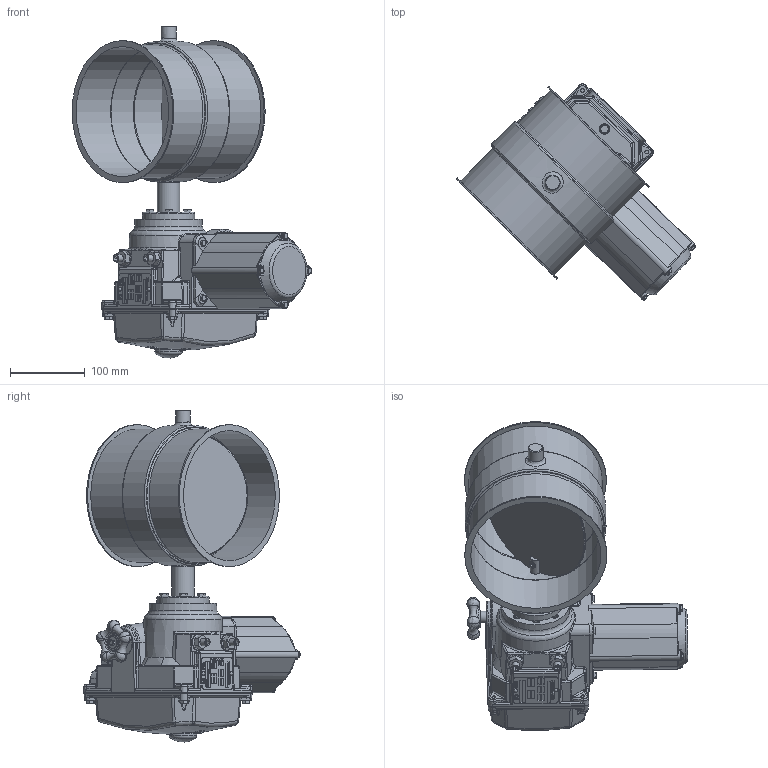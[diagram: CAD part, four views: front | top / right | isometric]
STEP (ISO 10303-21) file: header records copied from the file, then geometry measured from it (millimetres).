
FILE_DESCRIPTION((''),'2;1');
FILE_NAME('U:\Wolfgang\Marcel-3D\fertig\Kapitel 8\1721216.stp','2011-05-03T14:59:44',('TK1'),(''),'Autodesk Inventor 2010','Autodesk Inventor 2010','');
FILE_SCHEMA(('AUTOMOTIVE_DESIGN { 1 0 10303 214 1 1 1 1 }'));
Length unit declared in the file: millimetre
Products named in the file (9): 1721216; Bolzen D15; Scheibe170b; DIN 6912 M6 x 16; 1721210-1; D15 Antrieb Le-4; BuchseD15 70-50; DIN EN ISO 4018 M6x25; LEB45cc
Assembly tree (13 placements, depth 3):
  1721216
    Bolzen D15  x2
    Scheibe170b
    DIN 6912 M6 x 16  x2
    1721210-1
    D15 Antrieb Le-4
      BuchseD15 70-50
      DIN EN ISO 4018 M6x25  x4
      LEB45cc
Bounding box: 320.73 x 289.42 x 443.82 mm (x, y, z)
Volume: 4479069 mm3; surface area: 572244 mm2
Topology: 12 solids, 12 shells, 1496 faces, 3757 edges, 2356 vertices
Faces by surface type: plane 752, cylinder 291, bspline 241, torus 86, cone 81, sphere 45
Full cylindrical faces by diameter (mm): 3 x2, 5 x4, 5.1 x8, 6 x14, 6.9 x8, 10 x6, 15 x7, 15.5 x1, 16 x1, 17 x1, 18.6 x2, 20 x1, 24 x1, 30 x2, 35 x1, 42 x1, 70 x1, 174 x3, 175 x1, 178 x2, 183 x1, 184 x1, 188 x1, 190 x2
Entity records: 51821 total; most frequent: CARTESIAN_POINT 19478, ORIENTED_EDGE 6644, DIRECTION 5840, EDGE_CURVE 3322, VERTEX_POINT 2193, AXIS2_PLACEMENT_3D 2060, VECTOR 1720, LINE 1720
